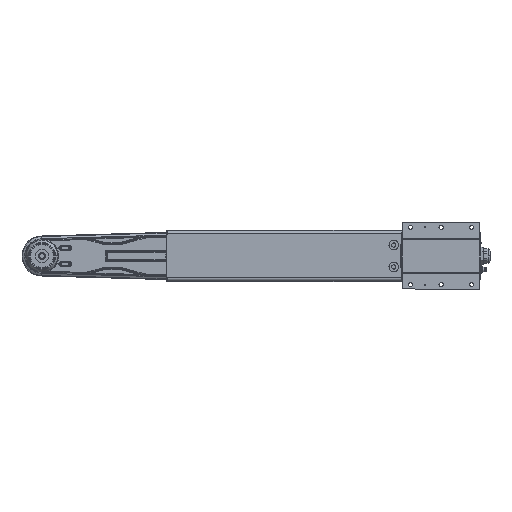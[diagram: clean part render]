
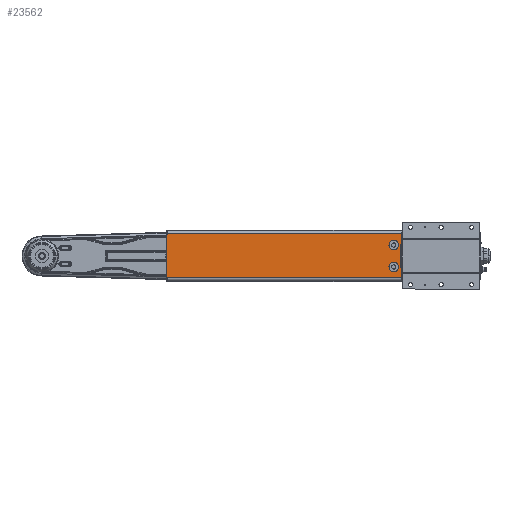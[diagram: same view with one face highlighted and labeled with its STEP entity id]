
A CAD part, front view. The second image highlights one B-rep face of the part: STEP entity #23562.
In plain terms, the highlighted planar face has unit normal (0, -1, 0).
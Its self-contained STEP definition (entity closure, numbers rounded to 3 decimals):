
#22048=DIRECTION('',(-1.,0.,0.));
#22049=VECTOR('',#22048,790.809);
#22050=CARTESIAN_POINT('',(-19.191,194.,68.357));
#22051=LINE('',#22050,#22049);
#22100=CARTESIAN_POINT('',(-107.,194.,-34.));
#22101=DIRECTION('',(0.,1.,0.));
#22102=DIRECTION('',(1.,0.,0.));
#22103=AXIS2_PLACEMENT_3D('',#22100,#22101,#22102);
#22105=CARTESIAN_POINT('',(-107.,194.,-34.));
#22106=DIRECTION('',(0.,1.,0.));
#22107=DIRECTION('',(-1.,0.,0.));
#22108=AXIS2_PLACEMENT_3D('',#22105,#22106,#22107);
#22110=CARTESIAN_POINT('',(-107.,194.,34.));
#22111=DIRECTION('',(0.,1.,0.));
#22112=DIRECTION('',(1.,0.,0.));
#22113=AXIS2_PLACEMENT_3D('',#22110,#22111,#22112);
#22115=CARTESIAN_POINT('',(-107.,194.,34.));
#22116=DIRECTION('',(0.,1.,0.));
#22117=DIRECTION('',(-1.,0.,0.));
#22118=AXIS2_PLACEMENT_3D('',#22115,#22116,#22117);
#22136=CARTESIAN_POINT('',(-810.,194.,-68.345));
#22137=CARTESIAN_POINT('',(-810.,194.,-68.323));
#22138=CARTESIAN_POINT('',(-810.,194.,-68.279));
#22139=CARTESIAN_POINT('',(-810.,194.,-68.235));
#22140=CARTESIAN_POINT('',(-810.,194.,-68.213));
#22142=DIRECTION('',(1.,0.,0.));
#22143=VECTOR('',#22142,2.);
#22144=CARTESIAN_POINT('',(-812.,194.,68.213));
#22145=LINE('',#22144,#22143);
#22146=CARTESIAN_POINT('',(-810.,194.,68.213));
#22147=CARTESIAN_POINT('',(-810.,194.,68.237));
#22148=CARTESIAN_POINT('',(-810.,194.,68.285));
#22149=CARTESIAN_POINT('',(-810.,194.,68.333));
#22150=CARTESIAN_POINT('',(-810.,194.,68.357));
#22223=CARTESIAN_POINT('',(0.,194.,0.));
#22224=DIRECTION('',(0.,-1.,0.));
#22225=DIRECTION('',(-0.27,0.,0.963));
#22226=AXIS2_PLACEMENT_3D('',#22223,#22224,#22225);
#22239=CARTESIAN_POINT('',(0.,194.,0.));
#22240=DIRECTION('',(0.,-1.,0.));
#22241=DIRECTION('',(-0.5,0.,0.866));
#22242=AXIS2_PLACEMENT_3D('',#22239,#22240,#22241);
#22269=DIRECTION('',(1.,0.,0.));
#22270=VECTOR('',#22269,790.767);
#22271=CARTESIAN_POINT('',(-810.,194.,-68.345));
#22272=LINE('',#22271,#22270);
#22442=DIRECTION('',(1.,0.,0.));
#22443=VECTOR('',#22442,2.);
#22444=CARTESIAN_POINT('',(-812.,194.,-68.213));
#22445=LINE('',#22444,#22443);
#22474=DIRECTION('',(0.,0.,-1.));
#22475=VECTOR('',#22474,136.425);
#22476=CARTESIAN_POINT('',(-812.,194.,68.213));
#22477=LINE('',#22476,#22475);
#22633=CARTESIAN_POINT('',(-812.,194.,68.213));
#22634=VERTEX_POINT('',#22633);
#22635=CARTESIAN_POINT('',(-812.,194.,-68.213));
#22636=VERTEX_POINT('',#22635);
#22649=CARTESIAN_POINT('',(-19.191,194.,68.357));
#22650=CARTESIAN_POINT('',(-35.5,194.,61.488));
#22651=VERTEX_POINT('',#22649);
#22652=VERTEX_POINT('',#22650);
#22657=CARTESIAN_POINT('',(-19.233,194.,-68.345));
#22658=VERTEX_POINT('',#22657);
#22677=CARTESIAN_POINT('',(-92.,194.,-34.));
#22678=CARTESIAN_POINT('',(-122.,194.,-34.));
#22679=VERTEX_POINT('',#22677);
#22680=VERTEX_POINT('',#22678);
#22685=CARTESIAN_POINT('',(-92.,194.,34.));
#22686=CARTESIAN_POINT('',(-122.,194.,34.));
#22687=VERTEX_POINT('',#22685);
#22688=VERTEX_POINT('',#22686);
#22724=VERTEX_POINT('',#22146);
#22725=VERTEX_POINT('',#22150);
#22727=CARTESIAN_POINT('',(-810.,194.001,-68.345));
#22729=VERTEX_POINT('',#22727);
#22730=VERTEX_POINT('',#22140);
#23528=CARTESIAN_POINT('',(-367.5,194.,0.006));
#23529=DIRECTION('',(0.,1.,0.));
#23530=DIRECTION('',(1.,0.,0.));
#23531=AXIS2_PLACEMENT_3D('',#23528,#23529,#23530);
#23532=PLANE('',#23531);
#23534=ORIENTED_EDGE('',*,*,#23533,.T.);
#23536=ORIENTED_EDGE('',*,*,#23535,.F.);
#23538=ORIENTED_EDGE('',*,*,#23537,.F.);
#23539=ORIENTED_EDGE('',*,*,#23461,.T.);
#23540=ORIENTED_EDGE('',*,*,#23459,.T.);
#23541=ORIENTED_EDGE('',*,*,#23373,.F.);
#23543=ORIENTED_EDGE('',*,*,#23542,.T.);
#23545=ORIENTED_EDGE('',*,*,#23544,.T.);
#23547=ORIENTED_EDGE('',*,*,#23546,.F.);
#23548=EDGE_LOOP('',(#23534,#23536,#23538,#23539,#23540,#23541,#23543,#23545,
#23547));
#23549=FACE_OUTER_BOUND('',#23548,.F.);
#23551=ORIENTED_EDGE('',*,*,#23550,.F.);
#23553=ORIENTED_EDGE('',*,*,#23552,.F.);
#23554=EDGE_LOOP('',(#23551,#23553));
#23555=FACE_BOUND('',#23554,.F.);
#23557=ORIENTED_EDGE('',*,*,#23556,.F.);
#23559=ORIENTED_EDGE('',*,*,#23558,.F.);
#23560=EDGE_LOOP('',(#23557,#23559));
#23561=FACE_BOUND('',#23560,.F.);
#22104=CIRCLE('',#22103,15.);
#22109=CIRCLE('',#22108,15.);
#22114=CIRCLE('',#22113,15.);
#22119=CIRCLE('',#22118,15.);
#22141=B_SPLINE_CURVE_WITH_KNOTS('',3,(#22136,#22137,#22138,#22139,#22140),
.UNSPECIFIED.,.F.,.F.,(4,1,4),(0.,0.5,1.),.UNSPECIFIED.);
#22151=B_SPLINE_CURVE_WITH_KNOTS('',3,(#22146,#22147,#22148,#22149,#22150),
.UNSPECIFIED.,.F.,.F.,(4,1,4),(0.,0.5,1.),.UNSPECIFIED.);
#22227=CIRCLE('',#22226,71.);
#22243=CIRCLE('',#22242,71.);
#23373=EDGE_CURVE('',#22651,#22725,#22051,.T.);
#23459=EDGE_CURVE('',#22724,#22725,#22151,.T.);
#23461=EDGE_CURVE('',#22634,#22724,#22145,.T.);
#23533=EDGE_CURVE('',#22729,#22730,#22141,.T.);
#23535=EDGE_CURVE('',#22636,#22730,#22445,.T.);
#23537=EDGE_CURVE('',#22634,#22636,#22477,.T.);
#23542=EDGE_CURVE('',#22651,#22652,#22227,.T.);
#23544=EDGE_CURVE('',#22652,#22658,#22243,.T.);
#23546=EDGE_CURVE('',#22729,#22658,#22272,.T.);
#23550=EDGE_CURVE('',#22679,#22680,#22104,.T.);
#23552=EDGE_CURVE('',#22680,#22679,#22109,.T.);
#23556=EDGE_CURVE('',#22687,#22688,#22114,.T.);
#23558=EDGE_CURVE('',#22688,#22687,#22119,.T.);
#23562=ADVANCED_FACE('',(#23549,#23555,#23561),#23532,.F.);
